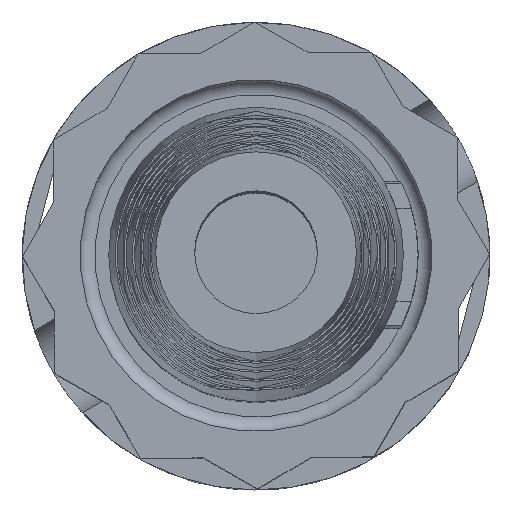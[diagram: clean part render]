
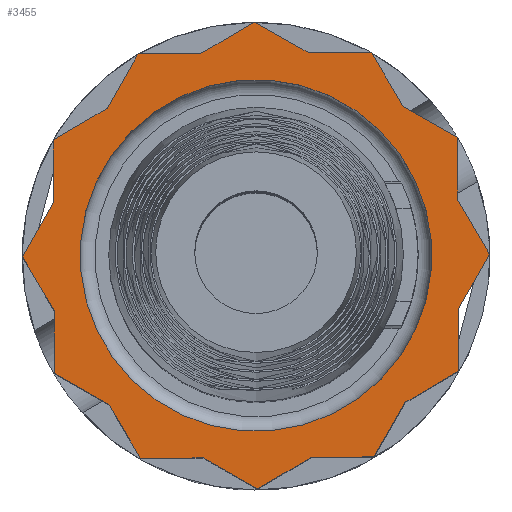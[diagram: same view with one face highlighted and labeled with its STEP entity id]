
A CAD part, top view. The second image highlights one B-rep face of the part: STEP entity #3455.
In plain terms, the highlighted planar face has unit normal (0, 0, 1).
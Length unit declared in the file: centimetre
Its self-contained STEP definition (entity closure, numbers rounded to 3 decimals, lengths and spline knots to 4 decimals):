
#152=VECTOR('',#8838,1.);
#154=VECTOR('',#8841,1.);
#180=VECTOR('',#8871,1.);
#181=VECTOR('',#8873,1.);
#182=VECTOR('',#8875,1.);
#183=VECTOR('',#8876,1.);
#184=VECTOR('',#8877,1.);
#185=VECTOR('',#8878,1.);
#186=VECTOR('',#8879,1.);
#187=VECTOR('',#8880,1.);
#188=VECTOR('',#8881,1.);
#189=VECTOR('',#8882,1.);
#190=VECTOR('',#8883,1.);
#191=VECTOR('',#8884,1.);
#192=VECTOR('',#8885,1.);
#193=VECTOR('',#8886,1.);
#194=VECTOR('',#8887,1.);
#195=VECTOR('',#8888,1.);
#196=VECTOR('',#8889,1.);
#197=VECTOR('',#8890,1.);
#198=VECTOR('',#8891,1.);
#199=VECTOR('',#8892,1.);
#200=VECTOR('',#8893,1.);
#201=VECTOR('',#8894,1.);
#366=LINE('',#7882,#152);
#368=LINE('',#7887,#154);
#394=LINE('',#7940,#180);
#395=LINE('',#7942,#181);
#396=LINE('',#7944,#182);
#397=LINE('',#7946,#183);
#398=LINE('',#7948,#184);
#399=LINE('',#7950,#185);
#400=LINE('',#7952,#186);
#401=LINE('',#7954,#187);
#402=LINE('',#7956,#188);
#403=LINE('',#7958,#189);
#404=LINE('',#7960,#190);
#405=LINE('',#7962,#191);
#406=LINE('',#7964,#192);
#407=LINE('',#7966,#193);
#408=LINE('',#7968,#194);
#409=LINE('',#7970,#195);
#410=LINE('',#7972,#196);
#411=LINE('',#7974,#197);
#412=LINE('',#7976,#198);
#413=LINE('',#7978,#199);
#414=LINE('',#7980,#200);
#415=LINE('',#7982,#201);
#651=PLANE('',#3741);
#957=VERTEX_POINT('',#7877);
#959=VERTEX_POINT('',#7881);
#960=VERTEX_POINT('',#7885);
#984=VERTEX_POINT('',#7937);
#985=VERTEX_POINT('',#7939);
#986=VERTEX_POINT('',#7945);
#987=VERTEX_POINT('',#7947);
#988=VERTEX_POINT('',#7949);
#989=VERTEX_POINT('',#7951);
#990=VERTEX_POINT('',#7953);
#991=VERTEX_POINT('',#7955);
#992=VERTEX_POINT('',#7957);
#993=VERTEX_POINT('',#7959);
#994=VERTEX_POINT('',#7961);
#995=VERTEX_POINT('',#7963);
#996=VERTEX_POINT('',#7965);
#997=VERTEX_POINT('',#7967);
#998=VERTEX_POINT('',#7969);
#999=VERTEX_POINT('',#7971);
#1000=VERTEX_POINT('',#7973);
#1001=VERTEX_POINT('',#7975);
#1002=VERTEX_POINT('',#7977);
#1003=VERTEX_POINT('',#7979);
#1004=VERTEX_POINT('',#7981);
#1005=VERTEX_POINT('',#7984);
#1177=CIRCLE('',#3742,0.3581);
#1556=EDGE_CURVE('',#957,#959,#366,.T.);
#1558=EDGE_CURVE('',#959,#960,#368,.T.);
#1585=EDGE_CURVE('',#984,#985,#394,.T.);
#1586=EDGE_CURVE('',#985,#957,#395,.T.);
#1587=EDGE_CURVE('',#960,#986,#396,.T.);
#1588=EDGE_CURVE('',#986,#987,#397,.T.);
#1589=EDGE_CURVE('',#987,#988,#398,.T.);
#1590=EDGE_CURVE('',#988,#989,#399,.T.);
#1591=EDGE_CURVE('',#989,#990,#400,.T.);
#1592=EDGE_CURVE('',#990,#991,#401,.T.);
#1593=EDGE_CURVE('',#991,#992,#402,.T.);
#1594=EDGE_CURVE('',#992,#993,#403,.T.);
#1595=EDGE_CURVE('',#993,#994,#404,.T.);
#1596=EDGE_CURVE('',#994,#995,#405,.T.);
#1597=EDGE_CURVE('',#995,#996,#406,.T.);
#1598=EDGE_CURVE('',#996,#997,#407,.T.);
#1599=EDGE_CURVE('',#997,#998,#408,.T.);
#1600=EDGE_CURVE('',#998,#999,#409,.T.);
#1601=EDGE_CURVE('',#999,#1000,#410,.T.);
#1602=EDGE_CURVE('',#1000,#1001,#411,.T.);
#1603=EDGE_CURVE('',#1001,#1002,#412,.T.);
#1604=EDGE_CURVE('',#1002,#1003,#413,.T.);
#1605=EDGE_CURVE('',#1003,#1004,#414,.T.);
#1606=EDGE_CURVE('',#1004,#984,#415,.T.);
#1607=EDGE_CURVE('',#1005,#1005,#1177,.T.);
#2454=ORIENTED_EDGE('',*,*,#1558,.T.);
#2455=ORIENTED_EDGE('',*,*,#1587,.T.);
#2456=ORIENTED_EDGE('',*,*,#1588,.T.);
#2457=ORIENTED_EDGE('',*,*,#1589,.T.);
#2458=ORIENTED_EDGE('',*,*,#1590,.T.);
#2459=ORIENTED_EDGE('',*,*,#1591,.T.);
#2460=ORIENTED_EDGE('',*,*,#1592,.T.);
#2461=ORIENTED_EDGE('',*,*,#1593,.T.);
#2462=ORIENTED_EDGE('',*,*,#1594,.T.);
#2463=ORIENTED_EDGE('',*,*,#1595,.T.);
#2464=ORIENTED_EDGE('',*,*,#1596,.T.);
#2465=ORIENTED_EDGE('',*,*,#1597,.T.);
#2466=ORIENTED_EDGE('',*,*,#1598,.T.);
#2467=ORIENTED_EDGE('',*,*,#1599,.T.);
#2468=ORIENTED_EDGE('',*,*,#1600,.T.);
#2469=ORIENTED_EDGE('',*,*,#1601,.T.);
#2470=ORIENTED_EDGE('',*,*,#1602,.T.);
#2471=ORIENTED_EDGE('',*,*,#1603,.T.);
#2472=ORIENTED_EDGE('',*,*,#1604,.T.);
#2473=ORIENTED_EDGE('',*,*,#1605,.T.);
#2474=ORIENTED_EDGE('',*,*,#1606,.T.);
#2475=ORIENTED_EDGE('',*,*,#1585,.T.);
#2476=ORIENTED_EDGE('',*,*,#1586,.T.);
#2477=ORIENTED_EDGE('',*,*,#1556,.T.);
#2478=ORIENTED_EDGE('',*,*,#1607,.T.);
#2948=EDGE_LOOP('',(#2454,#2455,#2456,#2457,#2458,#2459,#2460,#2461,#2462,
#2463,#2464,#2465,#2466,#2467,#2468,#2469,#2470,#2471,#2472,#2473,#2474,
#2475,#2476,#2477));
#2949=EDGE_LOOP('',(#2478));
#3233=FACE_BOUND('',#2948,.T.);
#3234=FACE_BOUND('',#2949,.T.);
#3455=ADVANCED_FACE('',(#3233,#3234),#651,.T.);
#3741=AXIS2_PLACEMENT_3D('',#7943,#8874,$);
#3742=AXIS2_PLACEMENT_3D('',#7983,#8895,#8896);
#7877=CARTESIAN_POINT('',(0.4103,0.2401,1.3599));
#7881=CARTESIAN_POINT('',(0.2996,0.3032,1.3599));
#7882=CARTESIAN_POINT('',(0.2797,0.3145,1.3599));
#7885=CARTESIAN_POINT('',(0.2353,0.4131,1.3599));
#7887=CARTESIAN_POINT('',(0.3112,0.2834,1.3599));
#7937=CARTESIAN_POINT('',(0.4754,0.0028,1.3599));
#7939=CARTESIAN_POINT('',(0.4111,0.1127,1.3599));
#7940=CARTESIAN_POINT('',(0.3995,0.1325,1.3599));
#7942=CARTESIAN_POINT('',(0.4112,0.0898,1.3599));
#7943=CARTESIAN_POINT('',(0.,0.,1.3599));
#7944=CARTESIAN_POINT('',(0.085,0.4122,1.3599));
#7945=CARTESIAN_POINT('',(0.1079,0.4124,1.3599));
#7946=CARTESIAN_POINT('',(0.1278,0.401,1.3599));
#7947=CARTESIAN_POINT('',(-0.0028,0.4754,1.3599));
#7948=CARTESIAN_POINT('',(-0.1325,0.3995,1.3599));
#7949=CARTESIAN_POINT('',(-0.1127,0.4111,1.3599));
#7950=CARTESIAN_POINT('',(-0.0898,0.4112,1.3599));
#7951=CARTESIAN_POINT('',(-0.2401,0.4103,1.3599));
#7952=CARTESIAN_POINT('',(-0.3145,0.2797,1.3599));
#7953=CARTESIAN_POINT('',(-0.3032,0.2996,1.3599));
#7954=CARTESIAN_POINT('',(-0.2834,0.3112,1.3599));
#7955=CARTESIAN_POINT('',(-0.4131,0.2353,1.3599));
#7956=CARTESIAN_POINT('',(-0.4122,0.085,1.3599));
#7957=CARTESIAN_POINT('',(-0.4124,0.1079,1.3599));
#7958=CARTESIAN_POINT('',(-0.401,0.1278,1.3599));
#7959=CARTESIAN_POINT('',(-0.4754,-0.0028,1.3599));
#7960=CARTESIAN_POINT('',(-0.3995,-0.1325,1.3599));
#7961=CARTESIAN_POINT('',(-0.4111,-0.1127,1.3599));
#7962=CARTESIAN_POINT('',(-0.4112,-0.0898,1.3599));
#7963=CARTESIAN_POINT('',(-0.4103,-0.2401,1.3599));
#7964=CARTESIAN_POINT('',(-0.2797,-0.3145,1.3599));
#7965=CARTESIAN_POINT('',(-0.2996,-0.3032,1.3599));
#7966=CARTESIAN_POINT('',(-0.3112,-0.2834,1.3599));
#7967=CARTESIAN_POINT('',(-0.2353,-0.4131,1.3599));
#7968=CARTESIAN_POINT('',(-0.085,-0.4122,1.3599));
#7969=CARTESIAN_POINT('',(-0.1079,-0.4124,1.3599));
#7970=CARTESIAN_POINT('',(-0.1278,-0.401,1.3599));
#7971=CARTESIAN_POINT('',(0.0028,-0.4754,1.3599));
#7972=CARTESIAN_POINT('',(0.1325,-0.3995,1.3599));
#7973=CARTESIAN_POINT('',(0.1127,-0.4111,1.3599));
#7974=CARTESIAN_POINT('',(0.0898,-0.4112,1.3599));
#7975=CARTESIAN_POINT('',(0.2401,-0.4103,1.3599));
#7976=CARTESIAN_POINT('',(0.3145,-0.2797,1.3599));
#7977=CARTESIAN_POINT('',(0.3032,-0.2996,1.3599));
#7978=CARTESIAN_POINT('',(0.2834,-0.3112,1.3599));
#7979=CARTESIAN_POINT('',(0.4131,-0.2353,1.3599));
#7980=CARTESIAN_POINT('',(0.4122,-0.085,1.3599));
#7981=CARTESIAN_POINT('',(0.4124,-0.1079,1.3599));
#7982=CARTESIAN_POINT('',(0.401,-0.1278,1.3599));
#7983=CARTESIAN_POINT('',(0.,0.,1.3599));
#7984=CARTESIAN_POINT('',(0.3465,-0.0907,1.3599));
#8838=DIRECTION('',(-0.869,0.495,0.));
#8841=DIRECTION('',(-0.505,0.863,0.));
#8871=DIRECTION('',(-0.505,0.863,0.));
#8873=DIRECTION('',(-0.006,1.,0.));
#8874=DIRECTION('',(0.,0.,1.));
#8875=DIRECTION('',(-1.,-0.006,0.));
#8876=DIRECTION('',(-0.869,0.495,0.));
#8877=DIRECTION('',(-0.863,-0.505,0.));
#8878=DIRECTION('',(-1.,-0.006,0.));
#8879=DIRECTION('',(-0.495,-0.869,0.));
#8880=DIRECTION('',(-0.863,-0.505,0.));
#8881=DIRECTION('',(0.006,-1.,0.));
#8882=DIRECTION('',(-0.495,-0.869,0.));
#8883=DIRECTION('',(0.505,-0.863,0.));
#8884=DIRECTION('',(0.006,-1.,0.));
#8885=DIRECTION('',(0.869,-0.495,0.));
#8886=DIRECTION('',(0.505,-0.863,0.));
#8887=DIRECTION('',(1.,0.006,0.));
#8888=DIRECTION('',(0.869,-0.495,0.));
#8889=DIRECTION('',(0.863,0.505,0.));
#8890=DIRECTION('',(1.,0.006,0.));
#8891=DIRECTION('',(0.495,0.869,0.));
#8892=DIRECTION('',(0.863,0.505,0.));
#8893=DIRECTION('',(-0.006,1.,0.));
#8894=DIRECTION('',(0.495,0.869,0.));
#8895=DIRECTION('',(0.,0.,-1.));
#8896=DIRECTION('',(0.346,-0.091,0.));
